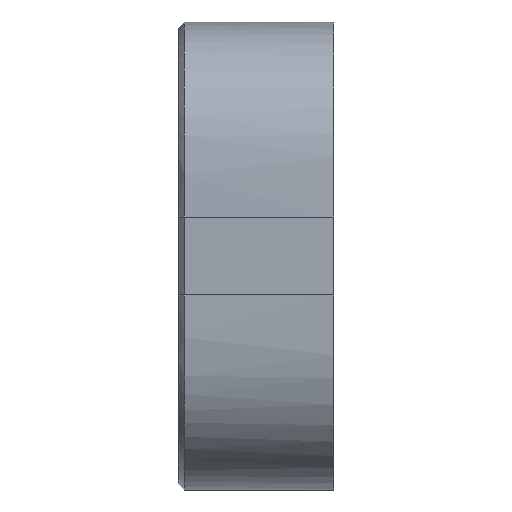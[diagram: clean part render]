
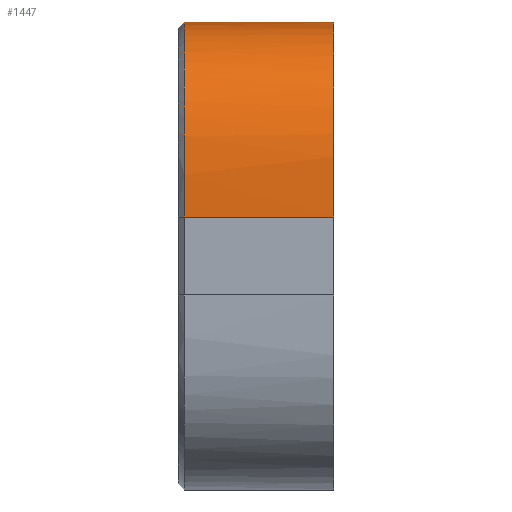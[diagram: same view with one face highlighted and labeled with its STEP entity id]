
A CAD part, front view. The second image highlights one B-rep face of the part: STEP entity #1447.
In plain terms, the highlighted free-form (B-spline) face has degree [3, 1] with [16, 2] control points.
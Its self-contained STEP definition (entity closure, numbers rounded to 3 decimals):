
#70=B_SPLINE_SURFACE_WITH_KNOTS('',3,1,((#6236,#6237),(#6238,#6239),(#6240,
#6241),(#6242,#6243),(#6244,#6245),(#6246,#6247),(#6248,#6249),(#6250,#6251),
(#6252,#6253),(#6254,#6255),(#6256,#6257),(#6258,#6259),(#6260,#6261),(#6262,
#6263),(#6264,#6265),(#6266,#6267)),.UNSPECIFIED.,.F.,.F.,.F.,(4,3,3,3,
3,4),(2,2),(0.,0.048,0.255,0.511,0.793,
1.),(0.,36.),.UNSPECIFIED.);
#142=FACE_OUTER_BOUND('',#230,.T.);
#230=EDGE_LOOP('',(#1250,#1251,#1252,#1253));
#367=B_SPLINE_CURVE_WITH_KNOTS('',3,(#5879,#5880,#5881,#5882,#5883,#5884,
#5885,#5886,#5887,#5888,#5889,#5890,#5891,#5892,#5893),.UNSPECIFIED.,.F.,
 .F.,(4,2,2,1,1,2,1,2,4),(0.,0.23,1.114,
1.791,2.13,2.468,3.394,4.321,
5.773),.UNSPECIFIED.);
#373=B_SPLINE_CURVE_WITH_KNOTS('',3,(#6270,#6271,#6272,#6273,#6274,#6275,
#6276,#6277,#6278,#6279,#6280,#6281,#6282,#6283,#6284,#6285),
 .UNSPECIFIED.,.F.,.F.,(4,3,3,3,3,4),(-1.,-0.793,-0.511,
-0.255,-0.048,0.),.UNSPECIFIED.);
#439=LINE('',#6234,#519);
#441=LINE('',#6269,#521);
#519=VECTOR('',#1735,10.);
#521=VECTOR('',#1737,10.);
#655=VERTEX_POINT('',#5859);
#657=VERTEX_POINT('',#5877);
#668=VERTEX_POINT('',#6233);
#669=VERTEX_POINT('',#6268);
#853=EDGE_CURVE('',#655,#657,#367,.T.);
#870=EDGE_CURVE('',#668,#655,#439,.T.);
#872=EDGE_CURVE('',#669,#657,#441,.T.);
#873=EDGE_CURVE('',#669,#668,#373,.T.);
#1250=ORIENTED_EDGE('',*,*,#853,.T.);
#1251=ORIENTED_EDGE('',*,*,#872,.F.);
#1252=ORIENTED_EDGE('',*,*,#873,.T.);
#1253=ORIENTED_EDGE('',*,*,#870,.T.);
#1447=ADVANCED_FACE('',(#142),#70,.F.);
#1735=DIRECTION('',(-1.,0.,0.));
#1737=DIRECTION('',(-1.,0.,0.));
#5859=CARTESIAN_POINT('',(160.8,-65.,189.9));
#5877=CARTESIAN_POINT('',(160.8,-90.,164.9));
#5879=CARTESIAN_POINT('Ctrl Pts',(160.8,-65.,189.9));
#5880=CARTESIAN_POINT('Ctrl Pts',(160.8,-65.767,189.9));
#5881=CARTESIAN_POINT('Ctrl Pts',(160.8,-66.545,189.9));
#5882=CARTESIAN_POINT('Ctrl Pts',(160.8,-70.34,189.862));
#5883=CARTESIAN_POINT('Ctrl Pts',(160.8,-73.461,189.695));
#5884=CARTESIAN_POINT('Ctrl Pts',(160.8,-78.581,188.372));
#5885=CARTESIAN_POINT('Ctrl Pts',(160.8,-81.175,187.125));
#5886=CARTESIAN_POINT('Ctrl Pts',(160.8,-83.379,185.526));
#5887=CARTESIAN_POINT('Ctrl Pts',(160.8,-84.35,184.63));
#5888=CARTESIAN_POINT('Ctrl Pts',(160.8,-86.057,182.839));
#5889=CARTESIAN_POINT('Ctrl Pts',(160.8,-88.111,179.72));
#5890=CARTESIAN_POINT('Ctrl Pts',(160.8,-89.142,176.15));
#5891=CARTESIAN_POINT('Ctrl Pts',(160.8,-89.963,171.453));
#5892=CARTESIAN_POINT('Ctrl Pts',(160.8,-90.,168.38));
#5893=CARTESIAN_POINT('Ctrl Pts',(160.8,-90.,164.9));
#6233=CARTESIAN_POINT('',(180.,-65.,189.9));
#6234=CARTESIAN_POINT('',(180.,-65.,189.9));
#6236=CARTESIAN_POINT('Ctrl Pts',(180.,-65.,189.9));
#6237=CARTESIAN_POINT('Ctrl Pts',(-180.,-65.,189.9));
#6238=CARTESIAN_POINT('Ctrl Pts',(180.,-65.794,189.9));
#6239=CARTESIAN_POINT('Ctrl Pts',(-180.,-65.794,189.9));
#6240=CARTESIAN_POINT('Ctrl Pts',(180.,-66.569,189.9));
#6241=CARTESIAN_POINT('Ctrl Pts',(-180.,-66.569,189.9));
#6242=CARTESIAN_POINT('Ctrl Pts',(180.,-67.328,189.892));
#6243=CARTESIAN_POINT('Ctrl Pts',(-180.,-67.328,189.892));
#6244=CARTESIAN_POINT('Ctrl Pts',(180.,-70.647,189.859));
#6245=CARTESIAN_POINT('Ctrl Pts',(-180.,-70.647,189.859));
#6246=CARTESIAN_POINT('Ctrl Pts',(180.,-73.633,189.653));
#6247=CARTESIAN_POINT('Ctrl Pts',(-180.,-73.633,189.653));
#6248=CARTESIAN_POINT('Ctrl Pts',(180.,-76.367,188.943));
#6249=CARTESIAN_POINT('Ctrl Pts',(-180.,-76.367,188.943));
#6250=CARTESIAN_POINT('Ctrl Pts',(180.,-79.721,188.073));
#6251=CARTESIAN_POINT('Ctrl Pts',(-180.,-79.721,188.073));
#6252=CARTESIAN_POINT('Ctrl Pts',(180.,-82.604,186.465));
#6253=CARTESIAN_POINT('Ctrl Pts',(-180.,-82.604,186.465));
#6254=CARTESIAN_POINT('Ctrl Pts',(180.,-84.81,184.146));
#6255=CARTESIAN_POINT('Ctrl Pts',(-180.,-84.81,184.146));
#6256=CARTESIAN_POINT('Ctrl Pts',(180.,-87.25,181.581));
#6257=CARTESIAN_POINT('Ctrl Pts',(-180.,-87.25,181.581));
#6258=CARTESIAN_POINT('Ctrl Pts',(180.,-88.78,178.225));
#6259=CARTESIAN_POINT('Ctrl Pts',(-180.,-88.78,178.225));
#6260=CARTESIAN_POINT('Ctrl Pts',(180.,-89.462,174.324));
#6261=CARTESIAN_POINT('Ctrl Pts',(-180.,-89.462,174.324));
#6262=CARTESIAN_POINT('Ctrl Pts',(180.,-89.963,171.458));
#6263=CARTESIAN_POINT('Ctrl Pts',(-180.,-89.963,171.458));
#6264=CARTESIAN_POINT('Ctrl Pts',(180.,-90.,168.367));
#6265=CARTESIAN_POINT('Ctrl Pts',(-180.,-90.,168.367));
#6266=CARTESIAN_POINT('Ctrl Pts',(180.,-90.,164.9));
#6267=CARTESIAN_POINT('Ctrl Pts',(-180.,-90.,164.9));
#6268=CARTESIAN_POINT('',(180.,-90.,164.9));
#6269=CARTESIAN_POINT('',(180.,-90.,164.9));
#6270=CARTESIAN_POINT('Ctrl Pts',(180.,-90.,164.9));
#6271=CARTESIAN_POINT('Ctrl Pts',(180.,-90.,168.367));
#6272=CARTESIAN_POINT('Ctrl Pts',(180.,-89.963,171.458));
#6273=CARTESIAN_POINT('Ctrl Pts',(180.,-89.462,174.324));
#6274=CARTESIAN_POINT('Ctrl Pts',(180.,-88.78,178.225));
#6275=CARTESIAN_POINT('Ctrl Pts',(180.,-87.25,181.581));
#6276=CARTESIAN_POINT('Ctrl Pts',(180.,-84.81,184.146));
#6277=CARTESIAN_POINT('Ctrl Pts',(180.,-82.604,186.465));
#6278=CARTESIAN_POINT('Ctrl Pts',(180.,-79.721,188.073));
#6279=CARTESIAN_POINT('Ctrl Pts',(180.,-76.367,188.943));
#6280=CARTESIAN_POINT('Ctrl Pts',(180.,-73.633,189.653));
#6281=CARTESIAN_POINT('Ctrl Pts',(180.,-70.647,189.859));
#6282=CARTESIAN_POINT('Ctrl Pts',(180.,-67.328,189.892));
#6283=CARTESIAN_POINT('Ctrl Pts',(180.,-66.569,189.9));
#6284=CARTESIAN_POINT('Ctrl Pts',(180.,-65.794,189.9));
#6285=CARTESIAN_POINT('Ctrl Pts',(180.,-65.,189.9));
